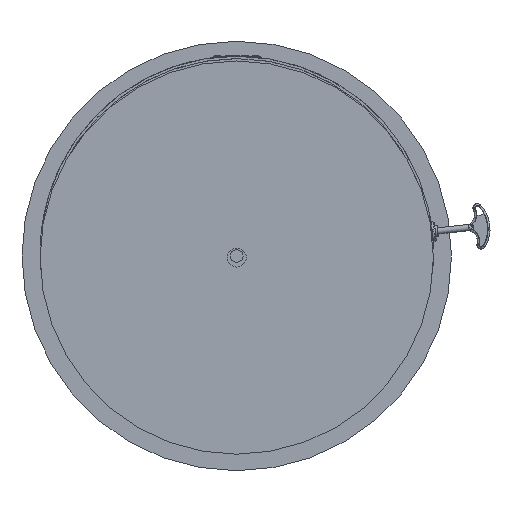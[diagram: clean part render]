
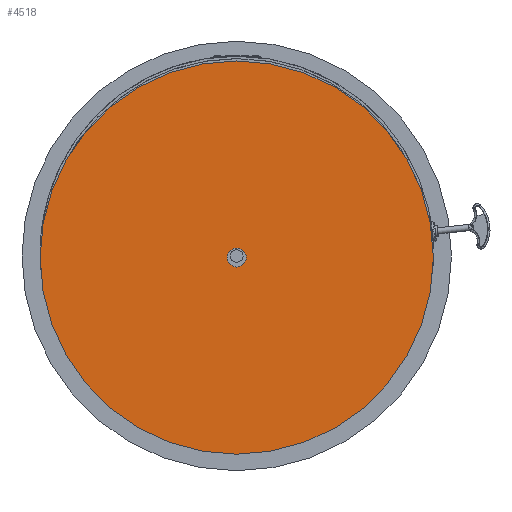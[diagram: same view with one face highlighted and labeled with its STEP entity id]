
A CAD part, front view. The second image highlights one B-rep face of the part: STEP entity #4518.
In plain terms, the highlighted planar face has unit normal (0, -1, 0).
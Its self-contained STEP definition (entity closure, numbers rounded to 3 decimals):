
#37 = EDGE_CURVE ( 'NONE', #27006, #14876, #31850, .T. ) ;
#72 = DIRECTION ( 'NONE',  ( 0., 1., 0. ) ) ;
#243 = ORIENTED_EDGE ( 'NONE', *, *, #7111, .F. ) ;
#4518 = ADVANCED_FACE ( 'NONE', ( #34633, #21094 ), #32244, .T. ) ;
#4831 = AXIS2_PLACEMENT_3D ( 'NONE', #26412, #9223, #9404 ) ;
#7111 = EDGE_CURVE ( 'NONE', #36045, #25065, #21665, .T. ) ;
#7513 = EDGE_LOOP ( 'NONE', ( #23250, #28912 ) ) ;
#7612 = CARTESIAN_POINT ( 'NONE',  ( 0., 0., 0. ) ) ;
#8340 = DIRECTION ( 'NONE',  ( 0., 1., 0. ) ) ;
#9129 = EDGE_CURVE ( 'NONE', #14876, #27006, #31103, .T. ) ;
#9223 = DIRECTION ( 'NONE',  ( 0., -1., 0. ) ) ;
#9404 = DIRECTION ( 'NONE',  ( 0., 0., -1. ) ) ;
#9892 = CARTESIAN_POINT ( 'NONE',  ( 0., 0., 12. ) ) ;
#14876 = VERTEX_POINT ( 'NONE', #9892 ) ;
#15395 = CARTESIAN_POINT ( 'NONE',  ( 0., 0., -250. ) ) ;
#16192 = DIRECTION ( 'NONE',  ( 0., 0., -1. ) ) ;
#16374 = CARTESIAN_POINT ( 'NONE',  ( 0., 0., 0. ) ) ;
#18740 = AXIS2_PLACEMENT_3D ( 'NONE', #7612, #8340, #27365 ) ;
#19427 = DIRECTION ( 'NONE',  ( 0., 0., 1. ) ) ;
#21094 = FACE_OUTER_BOUND ( 'NONE', #30734, .T. ) ;
#21665 = CIRCLE ( 'NONE', #18740, 250. ) ;
#23250 = ORIENTED_EDGE ( 'NONE', *, *, #9129, .F. ) ;
#23657 = DIRECTION ( 'NONE',  ( 0., 0., -1. ) ) ;
#25065 = VERTEX_POINT ( 'NONE', #28267 ) ;
#25262 = AXIS2_PLACEMENT_3D ( 'NONE', #31695, #34965, #23657 ) ;
#25647 = CIRCLE ( 'NONE', #34985, 250. ) ;
#26412 = CARTESIAN_POINT ( 'NONE',  ( 0., 0., 0. ) ) ;
#26745 = CARTESIAN_POINT ( 'NONE',  ( 0., 0., -12. ) ) ;
#27006 = VERTEX_POINT ( 'NONE', #26745 ) ;
#27010 = DIRECTION ( 'NONE',  ( 0., -1., 0. ) ) ;
#27365 = DIRECTION ( 'NONE',  ( 0., 0., 1. ) ) ;
#28016 = CARTESIAN_POINT ( 'NONE',  ( 0., 0., 0. ) ) ;
#28267 = CARTESIAN_POINT ( 'NONE',  ( 0., 0., 250. ) ) ;
#28912 = ORIENTED_EDGE ( 'NONE', *, *, #37, .F. ) ;
#28940 = AXIS2_PLACEMENT_3D ( 'NONE', #16374, #27010, #16192 ) ;
#30734 = EDGE_LOOP ( 'NONE', ( #33280, #243 ) ) ;
#31103 = CIRCLE ( 'NONE', #25262, 12. ) ;
#31695 = CARTESIAN_POINT ( 'NONE',  ( 0., 0., 0. ) ) ;
#31850 = CIRCLE ( 'NONE', #28940, 12. ) ;
#32032 = EDGE_CURVE ( 'NONE', #25065, #36045, #25647, .T. ) ;
#32244 = PLANE ( 'NONE',  #4831 ) ;
#33280 = ORIENTED_EDGE ( 'NONE', *, *, #32032, .F. ) ;
#34633 = FACE_BOUND ( 'NONE', #7513, .T. ) ;
#34965 = DIRECTION ( 'NONE',  ( 0., -1., 0. ) ) ;
#34985 = AXIS2_PLACEMENT_3D ( 'NONE', #28016, #72, #19427 ) ;
#36045 = VERTEX_POINT ( 'NONE', #15395 ) ;
